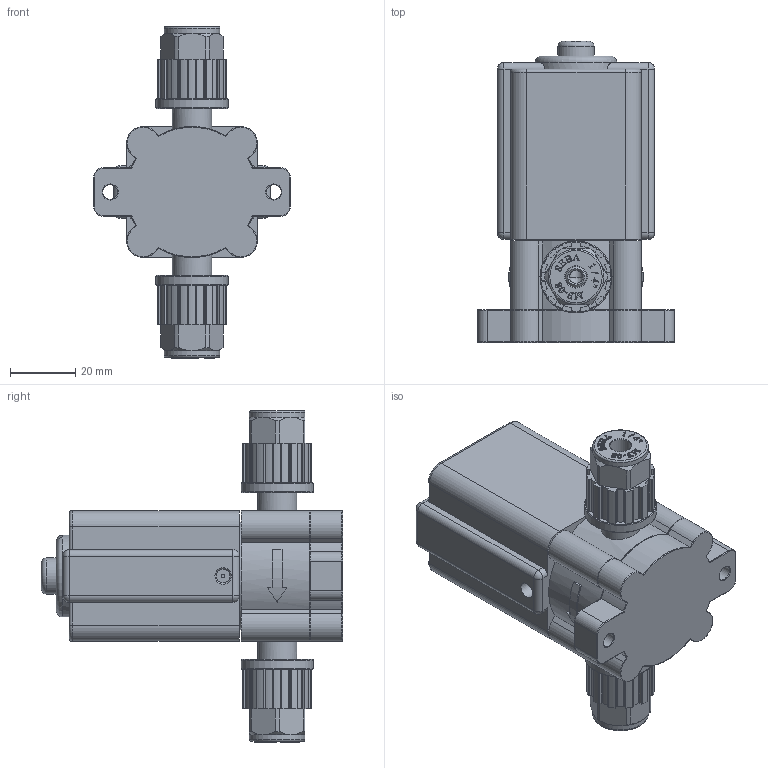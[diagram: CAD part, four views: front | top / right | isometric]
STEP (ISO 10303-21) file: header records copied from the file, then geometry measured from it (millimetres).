
FILE_DESCRIPTION(/* description */ (''),/* implementation_level */ '2;1');
FILE_NAME(/* name */ 'E:\SEBA\004 SEBA BACK UP(2018-01-11)\SEBA\001 DRAWING\SOILID WORKS\밸브\PFA_Valve\Auto-Valve\On-Off\SANC-PA-MF015-A-0\Imported Components\분리형-ASSY\SANC-PA-MF008-A-0.stp',/* time_stamp */ '2020-08-20T16:34:20+09:00',/* author */ ('KBS'),/* organization */ (''),/* preprocessor_version */ 'ST-DEVELOPER v15.2',/* originating_system */ 'Autodesk Inventor 2014',/* authorisation */ '');
FILE_SCHEMA (('AUTOMOTIVE_DESIGN { 1 0 10303 214 3 1 1 }'));
Products named in the file (1): SANC-PA-MF008-A-0
Bounding box: 60 x 92 x 101.4 mm (x, y, z)
Volume: 107365.1 mm3; surface area: 48950.1 mm2
Topology: 1 solids, 6 shells, 1346 faces, 3528 edges, 2284 vertices
Faces by surface type: plane 574, cylinder 351, bspline 295, torus 84, cone 31, sphere 11
Full cylindrical faces by diameter (mm): 1 x3, 4 x3, 4.2 x1, 4.5 x10, 5 x1, 6.5 x2, 7 x4, 7.5 x2, 7.9 x2, 8 x3, 9 x1, 10 x5, 10.5 x2, 11 x2, 12 x4, 13 x2, 15 x1, 16 x1, 17 x2, 18 x1, 20 x1, 22 x2, 25 x2, 26 x1, 29.2 x1, 30 x3, 32 x3, 33 x4
Entity records: 52229 total; most frequent: CARTESIAN_POINT 20694, ORIENTED_EDGE 6704, DIRECTION 5633, EDGE_CURVE 3352, VERTEX_POINT 2250, AXIS2_PLACEMENT_3D 1896, LINE 1841, VECTOR 1841
